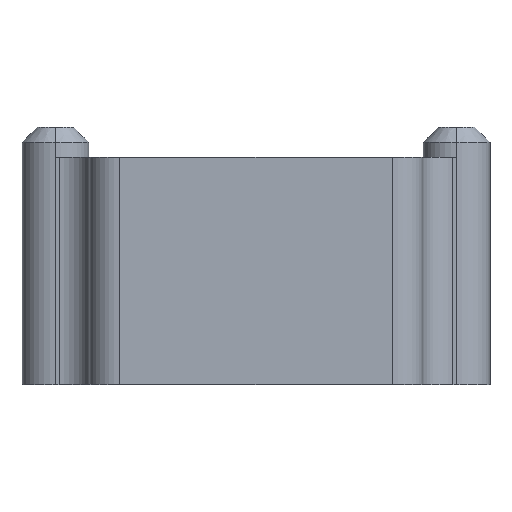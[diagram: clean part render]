
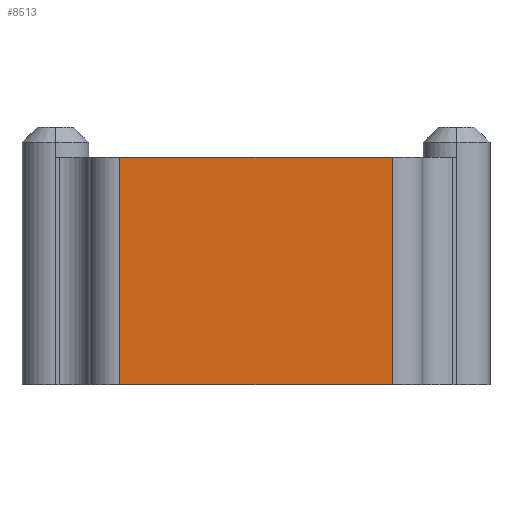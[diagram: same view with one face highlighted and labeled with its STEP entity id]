
A CAD part, top view. The second image highlights one B-rep face of the part: STEP entity #8513.
In plain terms, the highlighted planar face has unit normal (0, 0, 1).
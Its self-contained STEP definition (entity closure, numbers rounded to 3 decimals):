
#41 = VECTOR ( 'NONE', #7765, 1000. ) ;
#279 = DIRECTION ( 'NONE',  ( 1., 0., 0. ) ) ;
#376 = CARTESIAN_POINT ( 'NONE',  ( -22., -15., 16.8 ) ) ;
#1187 = CARTESIAN_POINT ( 'NONE',  ( -18., -15., 16.8 ) ) ;
#1591 = LINE ( 'NONE', #1680, #41 ) ;
#1680 = CARTESIAN_POINT ( 'NONE',  ( -22., 15., 16.8 ) ) ;
#1831 = LINE ( 'NONE', #5277, #7014 ) ;
#1962 = DIRECTION ( 'NONE',  ( 0., 1., 0. ) ) ;
#1997 = LINE ( 'NONE', #6772, #6413 ) ;
#2403 = VERTEX_POINT ( 'NONE', #6938 ) ;
#3667 = CARTESIAN_POINT ( 'NONE',  ( -22., 15., 16.8 ) ) ;
#3914 = AXIS2_PLACEMENT_3D ( 'NONE', #3667, #7874, #4485 ) ;
#3968 = DIRECTION ( 'NONE',  ( 0., -1., 0. ) ) ;
#4038 = VERTEX_POINT ( 'NONE', #1187 ) ;
#4366 = EDGE_CURVE ( 'NONE', #4038, #2403, #7889, .T. ) ;
#4485 = DIRECTION ( 'NONE',  ( -1., 0., 0. ) ) ;
#4662 = ORIENTED_EDGE ( 'NONE', *, *, #6423, .T. ) ;
#4733 = VECTOR ( 'NONE', #279, 1000. ) ;
#5050 = EDGE_CURVE ( 'NONE', #2403, #5664, #1831, .T. ) ;
#5277 = CARTESIAN_POINT ( 'NONE',  ( 18., 15., 16.8 ) ) ;
#5569 = CARTESIAN_POINT ( 'NONE',  ( 18., 15., 16.8 ) ) ;
#5664 = VERTEX_POINT ( 'NONE', #5569 ) ;
#5728 = FACE_OUTER_BOUND ( 'NONE', #6661, .T. ) ;
#6223 = ORIENTED_EDGE ( 'NONE', *, *, #4366, .T. ) ;
#6413 = VECTOR ( 'NONE', #3968, 1000. ) ;
#6423 = EDGE_CURVE ( 'NONE', #8398, #4038, #1997, .T. ) ;
#6527 = PLANE ( 'NONE',  #3914 ) ;
#6575 = ORIENTED_EDGE ( 'NONE', *, *, #5050, .T. ) ;
#6661 = EDGE_LOOP ( 'NONE', ( #6223, #6575, #8301, #4662 ) ) ;
#6772 = CARTESIAN_POINT ( 'NONE',  ( -18., 15., 16.8 ) ) ;
#6938 = CARTESIAN_POINT ( 'NONE',  ( 18., -15., 16.8 ) ) ;
#7014 = VECTOR ( 'NONE', #1962, 1000. ) ;
#7765 = DIRECTION ( 'NONE',  ( 1., 0., 0. ) ) ;
#7874 = DIRECTION ( 'NONE',  ( 0., 0., -1. ) ) ;
#7889 = LINE ( 'NONE', #376, #4733 ) ;
#8042 = EDGE_CURVE ( 'NONE', #8398, #5664, #1591, .T. ) ;
#8193 = CARTESIAN_POINT ( 'NONE',  ( -18., 15., 16.8 ) ) ;
#8301 = ORIENTED_EDGE ( 'NONE', *, *, #8042, .F. ) ;
#8398 = VERTEX_POINT ( 'NONE', #8193 ) ;
#8513 = ADVANCED_FACE ( 'NONE', ( #5728 ), #6527, .F. ) ;
